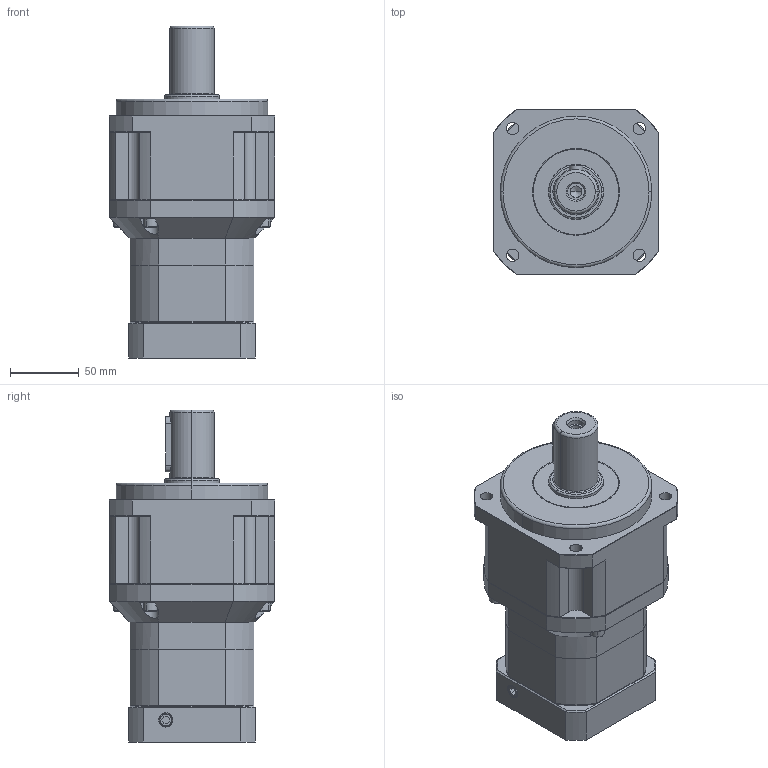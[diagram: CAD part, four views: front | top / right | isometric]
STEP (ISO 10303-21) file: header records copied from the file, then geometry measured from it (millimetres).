
FILE_DESCRIPTION (( 'STEP AP203' ), '1' );
FILE_NAME ('SB120-2-70M6.STEP', '2011-07-11T08:46:47', ( '1' ), ( '' ), 'SwSTEP 2.0', 'SolidWorks 2011', '' );
FILE_SCHEMA (( 'CONFIG_CONTROL_DESIGN' ));
Length unit declared in the file: millimetre
Products named in the file (1): SB120-2-70M6
Bounding box: 120 x 120 x 241 mm (x, y, z)
Volume: 1686350.7 mm3; surface area: 218047.6 mm2
Topology: 21 solids, 21 shells, 784 faces, 1826 edges, 1114 vertices
Faces by surface type: plane 354, cylinder 235, cone 148, torus 34, bspline 13
Entity records: 23213 total; most frequent: CARTESIAN_POINT 5114, DIRECTION 3915, ORIENTED_EDGE 3584, EDGE_CURVE 1792, AXIS2_PLACEMENT_3D 1473, VERTEX_POINT 1114, VECTOR 969, LINE 969
